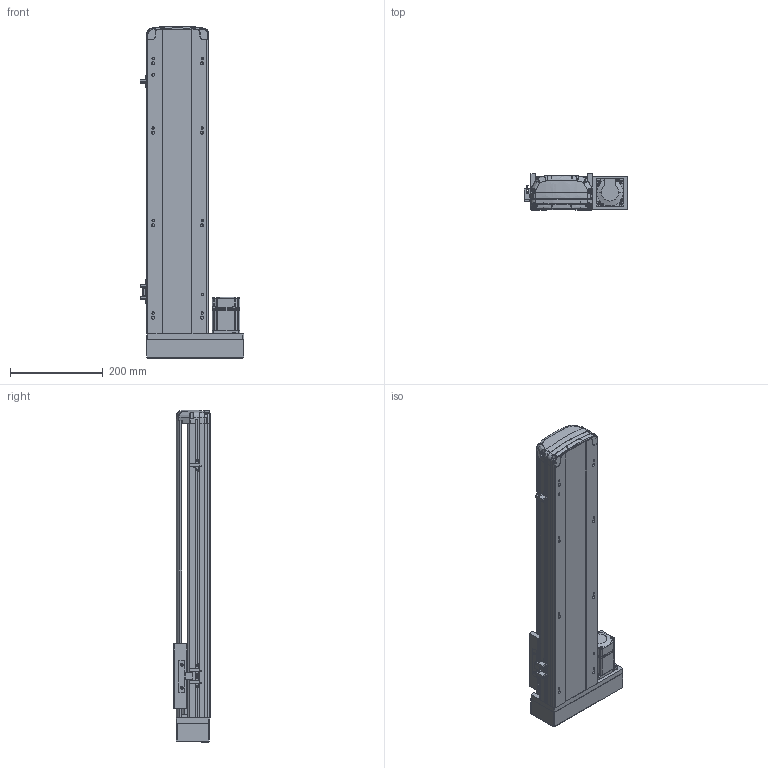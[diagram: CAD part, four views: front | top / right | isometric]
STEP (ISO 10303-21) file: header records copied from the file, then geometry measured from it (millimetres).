
FILE_DESCRIPTION (( 'STEP AP214' ), '1' );
FILE_NAME ('RTH14-XX-450-R-M20-C4.STEP', '2025-10-24T09:53:46', ( 'Microsoft' ), ( 'Microsoft' ), 'SwSTEP 2.0', 'SolidWorks 2018', '' );
FILE_SCHEMA (( 'AUTOMOTIVE_DESIGN' ));
Length unit declared in the file: millimetre
Products named in the file (10): N_RTH14-M-007P奻裔^RTH14-XX-XX-R-M20-C4; N_RTH14-GY-001P^RTH14-XX-XX-R-M20-C4; RTH14-XX-450-R-M20-C4; N_RTH13-L-018 裔赽^RTH14-XX-XX-R-M20-C4; N_RTH14-R-004-SFSR16賑釱^RTH14-XX-XX-R-M20-C4; N_RTH13-L-012感应片（外置）^RTH14-XX-XX-R-M20-C4; N_RTH13-L-008-P20 萇儂啣酘蛌殏^RTH14-XX-XX-R-M20-C4; N_MSMD022P1AA_200W^RTH14-XX-XX-R-M20-C4; N_RTH14-M-011P菁釱^RTH14-XX-XX-R-M20-C4; N_OMRON EE-SX672 传感器^RTH14-XX-XX-R-M20-C4
Assembly tree (11 placements, depth 2):
  RTH14-XX-450-R-M20-C4
    N_RTH14-M-011P菁釱^RTH14-XX-XX-R-M20-C4
    N_RTH14-M-007P奻裔^RTH14-XX-XX-R-M20-C4
    N_MSMD022P1AA_200W^RTH14-XX-XX-R-M20-C4
    N_RTH13-L-008-P20 萇儂啣酘蛌殏^RTH14-XX-XX-R-M20-C4
    N_RTH13-L-018 裔赽^RTH14-XX-XX-R-M20-C4
    N_RTH13-L-012感应片（外置）^RTH14-XX-XX-R-M20-C4
    N_OMRON EE-SX672 传感器^RTH14-XX-XX-R-M20-C4  x3
    N_RTH14-R-004-SFSR16賑釱^RTH14-XX-XX-R-M20-C4
    N_RTH14-GY-001P^RTH14-XX-XX-R-M20-C4
Bounding box: 224 x 78.03 x 717.73 mm (x, y, z)
Volume: 3363454.1 mm3; surface area: 804077.8 mm2
Topology: 10 solids, 12 shells, 1855 faces, 5188 edges, 3401 vertices
Faces by surface type: plane 987, cylinder 473, bspline 346, cone 45, torus 4
Entity records: 56579 total; most frequent: CARTESIAN_POINT 22959, ORIENTED_EDGE 7433, DIRECTION 5926, EDGE_CURVE 3722, VERTEX_POINT 2437, LINE 2140, VECTOR 2140, AXIS2_PLACEMENT_3D 1893
